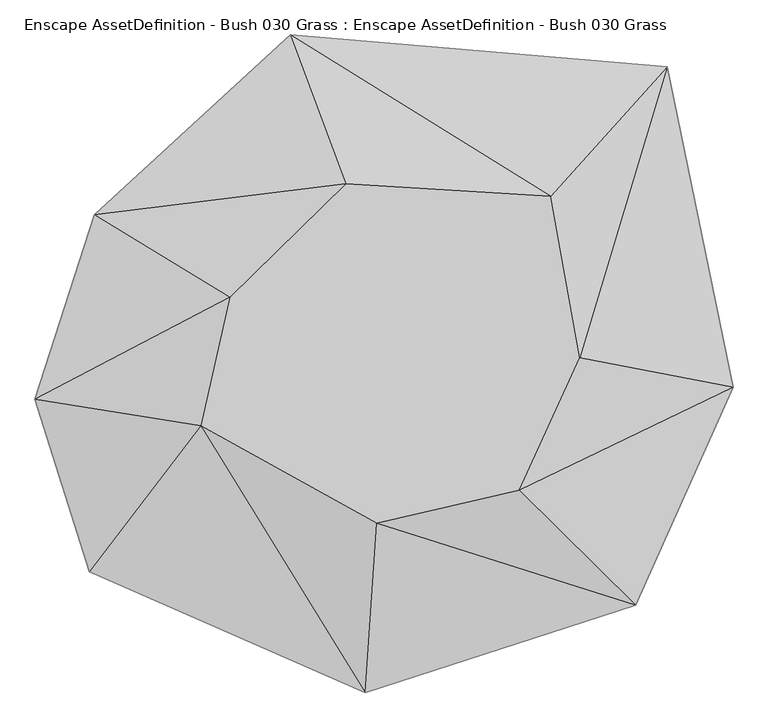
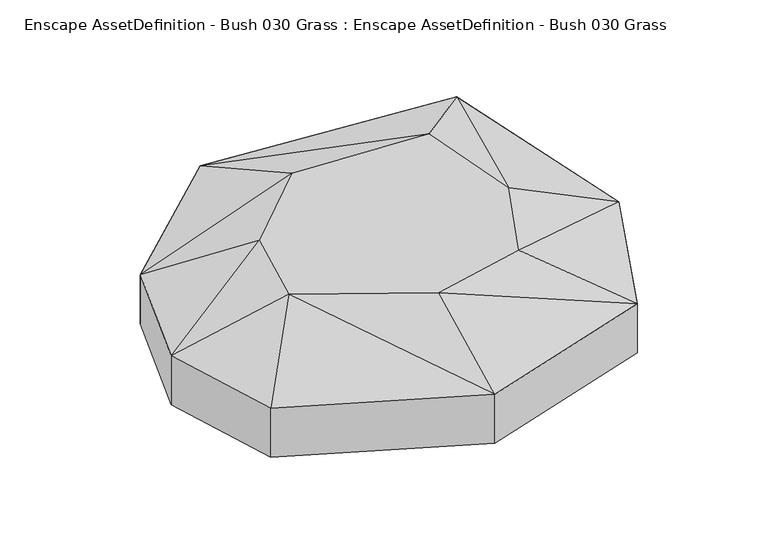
"""IFC4 building model written with IfcOpenShell, lengths in millimetres: geographic element geometry, Enscape AssetDefinition - Bush 030 Grass : Enscape AssetDefinition - Bush 030 Grass."""

from ifc_helpers import new_model, si_unit, origin, place, context, project, spatial, triangles, source, transform, mapped, element, save


def enscape_assetdefinition_bush_030_grass_enscape_cd22858d(model_context):
    return source(origin(), model_context, "Body", "Tessellation", [
        triangles([(212.098718, -206.1598908, 209.6558438), (304.0153459, -5.5952583, 209.6558438), (-3.1042777, -255.4641124, 209.6558438), (388.3433381, -379.5109557, 120.8526524), (535.5872575, -50.2840265, 120.8526524), (436.2159974, 434.3239981, 0.0), (-134.2358108, 482.6804941, 120.8526524), (-134.2358108, 482.6804941, 0.0), (436.2159974, 434.3239981, 120.8526524), (260.1002212, 238.8764803, 209.6558438), (-50.3951207, 257.7810313, 209.6558438), (-430.6665542, 211.0588105, 0.0), (-430.6665542, 211.0588105, 120.8526524), (-225.6244549, 86.2807074, 209.6552625), (-437.7581271, -328.801442, 120.8526524), (-269.1032327, -108.2729151, 209.6558438), (-520.1901232, -68.1034194, 0.0005726), (-520.1901232, -68.1034194, 120.8526524), (-437.7581271, -328.801442, 0.0), (-20.7850867, -511.8404511, 0.0), (-20.7850867, -511.8404511, 120.8526524), (388.3433381, -379.5109557, 0.0), (535.5872575, -50.2840265, 0.0)], [[22, 23, 4], [4, 21, 22], [20, 22, 21], [21, 15, 20], [19, 20, 15], [15, 18, 19], [17, 19, 18], [18, 15, 16], [15, 21, 16], [21, 4, 3], [3, 16, 21], [16, 14, 18], [14, 16, 3], [13, 18, 14], [18, 13, 17], [12, 17, 13], [14, 11, 13], [11, 14, 3], [7, 13, 11], [13, 7, 12], [8, 12, 7], [11, 10, 7], [10, 11, 3], [9, 7, 10], [7, 9, 8], [6, 8, 9], [5, 4, 23], [9, 5, 6], [23, 6, 5], [1, 3, 4], [4, 5, 1], [2, 1, 5], [10, 2, 9], [5, 9, 2], [2, 10, 3], [1, 2, 3]], closed=False),
    ])


if __name__ == "__main__":
    model = new_model("IFC4")
    model_context = context("Model", 3, world=origin())
    ifc_project = project(units=[si_unit("LENGTHUNIT", "METRE", prefix="MILLI")], contexts=[model_context])
    site = spatial("IfcSite", under=ifc_project)
    building = spatial("IfcBuilding", under=site)
    placement = place(None, origin())
    enscape_assetdefinition_bush_030_grass_enscape_shape = enscape_assetdefinition_bush_030_grass_enscape_cd22858d(model_context)
    element("IfcGeographicElement", 1, ObjectType="Enscape AssetDefinition - Bush 030 Grass : Enscape AssetDefinition - Bush 030 Grass", at=placement, inside=building, context=model_context, shape_type="MappedRepresentation", body=[
        mapped(enscape_assetdefinition_bush_030_grass_enscape_shape, transform((0.0, 0.0, 0.0), x_axis=(1.0, 0.0, 0.0), y_axis=(0.0, 1.0, 0.0), z_axis=(0.0, 0.0, 1.0))),
    ])
    save(model, "model.ifc")
